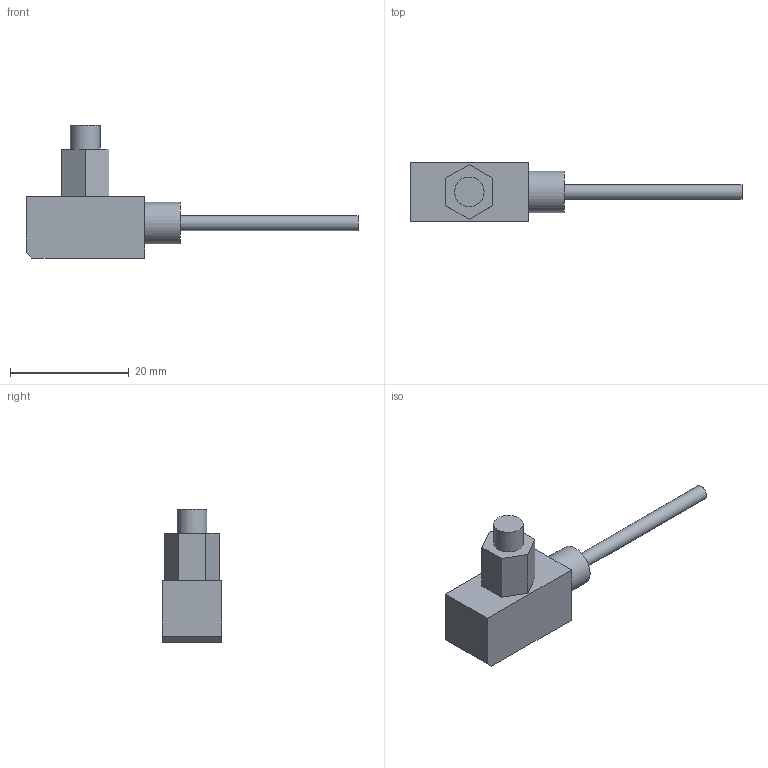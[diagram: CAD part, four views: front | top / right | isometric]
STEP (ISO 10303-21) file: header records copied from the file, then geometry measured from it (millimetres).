
FILE_DESCRIPTION(/* description */ ('MINI VACUOSTATO DIGITALE MASC.M5x0,8 CAVO 3M SENZA CONNETT.'),/* implementation_level */ '2;1');
FILE_NAME(/* name */ 'C:\PNX_VAULTFOLDER\Area Tecnica\Disegni\VARIE-3D\Componenti\1900 (vuoto)\DS_10_V_B_F4_E_0.stp',/* time_stamp */ '2019-09-13T14:42:50+02:00',/* author */ ('maniean1'),/* organization */ ('Pneumax S.p.A.'),/* preprocessor_version */ 'ST-DEVELOPER v17',/* originating_system */ 'Autodesk Inventor 2019',/* authorisation */ '');
FILE_SCHEMA (('AUTOMOTIVE_DESIGN { 1 0 10303 214 3 1 1 }'));
Length unit declared in the file: millimetre
Products named in the file (1): DS.10.V.B.F4.E.0
Bounding box: 56 x 10 x 22.5 mm (x, y, z)
Volume: 2975.5 mm3; surface area: 1675.6 mm2
Topology: 1 solids, 1 shells, 27 faces, 57 edges, 38 vertices
Faces by surface type: plane 23, cylinder 4
Full cylindrical faces by diameter (mm): 2.5 x1, 5 x2, 7 x1
Entity records: 758 total; most frequent: CARTESIAN_POINT 123, DIRECTION 121, ORIENTED_EDGE 114, EDGE_CURVE 57, LINE 49, VECTOR 49, VERTEX_POINT 38, AXIS2_PLACEMENT_3D 36
